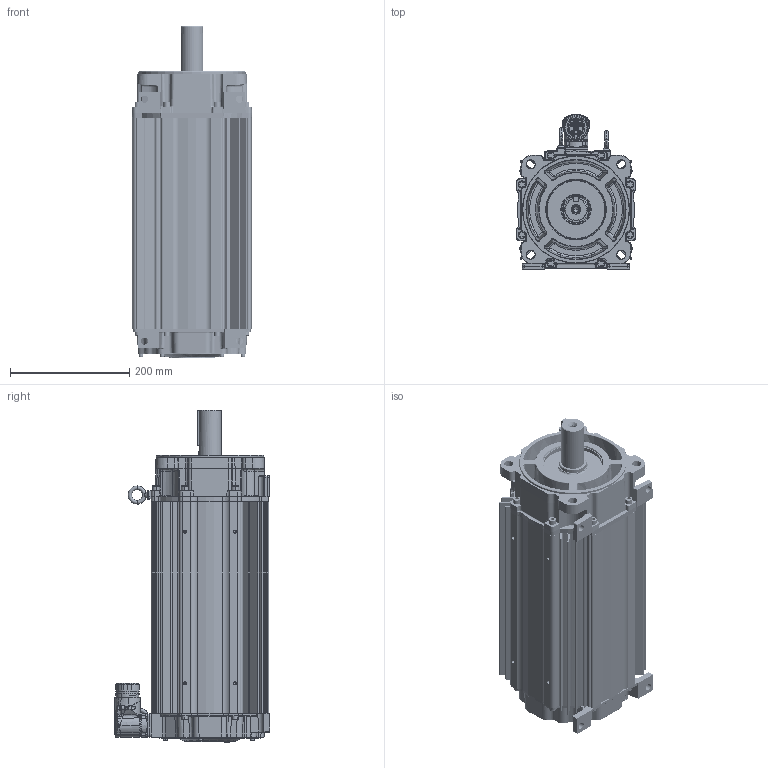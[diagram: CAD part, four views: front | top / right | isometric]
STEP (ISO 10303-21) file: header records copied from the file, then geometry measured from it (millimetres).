
FILE_DESCRIPTION((''),'2;1');
FILE_NAME('10001410891-Q_ASM','2020-01-15T13:42:32',('VThimma'),('Rockwell Automation'),'CREO PARAMETRIC BY PTC INC, 2017380','CREO PARAMETRIC BY PTC INC, 2017380','');
FILE_SCHEMA(('CONFIG_CONTROL_DESIGN','SHAPE_APPEARANCE_LAYERS_GROUPS'));
Products named in the file (23): 10001371613; 10001238886_AF0; 10001298482_AF22; 10001284445_ASM; CH31X150; 10001406659_ASM; 10001239160; 10001239197_ASM; 10001257630_AF307; 10001300098_AF279; 10001314835_ASM; 10001586886; 10000172464; 0002-5005; 10000801000; 10000801001; 10000801002_ASM; 221404-Q12; 10000569218; 10001290343; 0011-2066; 10001609981; 10001410891-Q_ASM
Assembly tree (46 placements, depth 4):
  10001410891-Q_ASM
    10001406659_ASM
      10001371613
      10001284445_ASM
        10001238886_AF0
        10001298482_AF22
      CH31X150  x8
    10001239197_ASM
      10001239160
    10001314835_ASM
      10001257630_AF307
      10001300098_AF279
    10001586886  x8
    10000172464
    0002-5005  x2
    10000801002_ASM
      10000801000
      10000801001
    221404-Q12  x10
    10000569218
    10001290343
    0011-2066
    10001609981
Bounding box: 200.45 x 260.6 x 557.79 mm (x, y, z)
Surface area: 1314725.3 mm2 (no closed solid volume)
Topology: 0 solids, 52 shells, 4930 faces, 12189 edges, 7449 vertices
Faces by surface type: cylinder 1423, plane 1363, bspline 904, torus 606, cone 551, sphere 76, extrusion 7
Entity records: 213746 total; most frequent: CARTESIAN_POINT 68588, ORIENTED_EDGE 19276, DIRECTION 17779, PRESENTATION_STYLE_ASSIGNMENT 13522, STYLED_ITEM 13522, CURVE_STYLE 9653, EDGE_CURVE 9646, AXIS2_PLACEMENT_3D 7057
